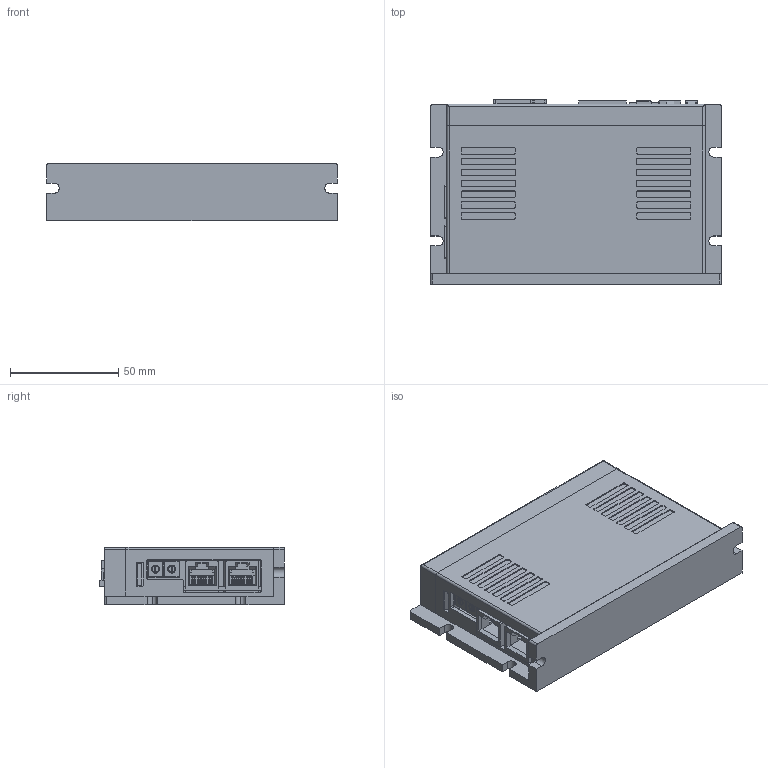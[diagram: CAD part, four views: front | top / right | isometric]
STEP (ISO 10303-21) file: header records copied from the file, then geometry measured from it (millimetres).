
FILE_DESCRIPTION (( 'STEP AP203' ), '1' );
FILE_NAME ('P1C-DR-000-03-R00.STEP', '2020-07-07T08:21:13', ( '' ), ( '' ), 'SwSTEP 2.0', 'SolidWorks 2013', '' );
FILE_SCHEMA (( 'CONFIG_CONTROL_DESIGN' ));
Length unit declared in the file: millimetre
Products named in the file (23): S20B-PADSS-1; M1C-DR-000-07-R00; Part1; S02B-PASK-2; M1C-DR-000-01-R01; Part1_2; S08B-PASK-2; _X2_D30CD2B8_X0_96; Part1_3; P1C-DR-000-03-R00; _X2_D30CD2B8_X0_94; 1; 12; 2; countersunk flat cross head screw_ks_KS 1023 FC- M3 x 14-N; 5; M1A-DR-000-01-R00; 3; Part1_4; Ezi_SERVO_2 ST PCB; MOLEX_0678038020; 7; Ezi_SERVO_2 PR PCB
Assembly tree (28 placements, depth 3):
  P1C-DR-000-03-R00
    M1A-DR-000-01-R00
    Ezi_SERVO_2 ST PCB
    Ezi_SERVO_2 PR PCB
    1
      Part1
      Part1_2
      Part1_3
    2
    5  x2
    7  x2
      Part1_4
    M1C-DR-000-07-R00
    M1C-DR-000-01-R01
    12  x2
      _X2_D30CD2B8_X0_96
      _X2_D30CD2B8_X0_94
    countersunk flat cross head screw_ks_KS 1023 FC- M3 x 14-N  x4
    3
    MOLEX_0678038020
    S20B-PADSS-1
    S02B-PASK-2
    S08B-PASK-2
Bounding box: 134 x 85.15 x 26.5 mm (x, y, z)
Volume: 110550.5 mm3; surface area: 105056.1 mm2
Topology: 33 solids, 33 shells, 3532 faces, 9745 edges, 6376 vertices
Faces by surface type: plane 2714, cylinder 698, cone 78, bspline 22, torus 20
Entity records: 100096 total; most frequent: CARTESIAN_POINT 18260, ORIENTED_EDGE 16914, DIRECTION 15711, EDGE_CURVE 8457, LINE 7045, VECTOR 7045, VERTEX_POINT 5554, AXIS2_PLACEMENT_3D 4333
